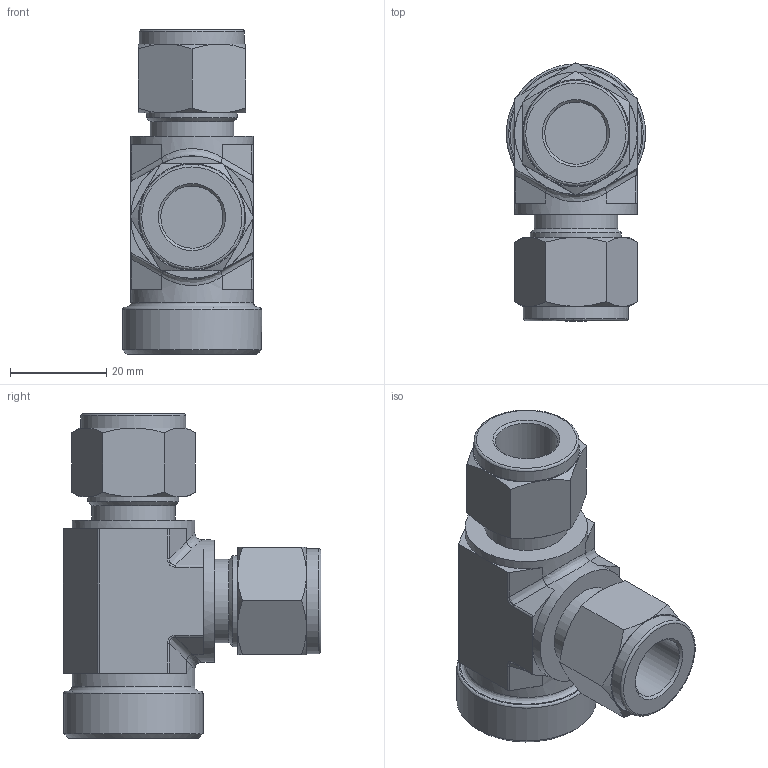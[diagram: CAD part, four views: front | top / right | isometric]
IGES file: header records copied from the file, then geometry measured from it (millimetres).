
Global section: file name: SFRT-8-8N; native system: Autodesk Inventor 2016; preprocessor: unknown; author: DESIGNPC2; date: 20151031.102553; units: millimetre
Bounding box: 28.87 x 53.49 x 67.4 mm (x, y, z)
Volume: 32451 mm3; surface area: 12733.2 mm2
Topology: 1 solids, 1 shells, 136 faces, 351 edges, 233 vertices
Faces by surface type: bspline 136
